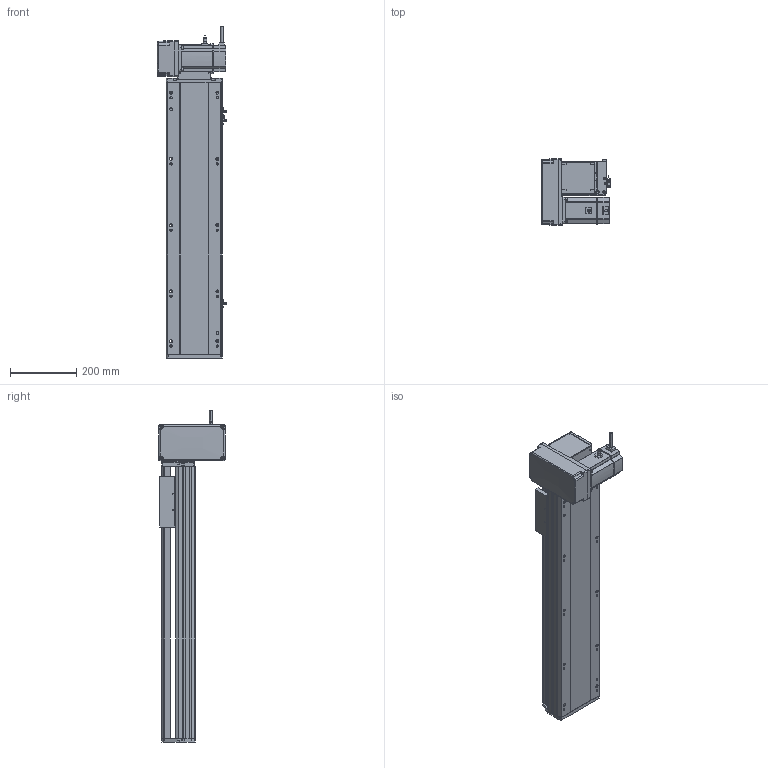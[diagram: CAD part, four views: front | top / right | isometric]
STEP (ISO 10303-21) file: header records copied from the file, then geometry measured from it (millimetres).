
FILE_DESCRIPTION (( 'STEP AP214' ), '1' );
FILE_NAME ('RTB17S-XX-550-LM-M75-C4.STEP', '2025-12-12T00:35:38', ( '' ), ( '' ), 'SwSTEP 2.0', 'SolidWorks 2018', '' );
FILE_SCHEMA (( 'AUTOMOTIVE_DESIGN' ));
Length unit declared in the file: millimetre
Products named in the file (15): RTB17S-賑釱^RTB17S-XX-XX-LM-M75-C4; RTB22S-GY-008-M75--萇儂啣^RTB17S-LM-々湍釱蚾饜-750W_RTB17S-XX-XX-LM-M75-C4; RTB22S-GY-018P^RTB17S-LM-々湍釱蚾饜-750W_RTB17S-XX-XX-LM-M75-C4; RTB17-R-011菁釱^RTB17S-XX-XX-LM-M75-C4; 750W萇儂^RTB17S-XX-XX-LM-M75-C4; EE672^RTB17S-XX-XX-LM-M75-C4; RTB17S-XX-550-LM-M75-C4; RTB17S-LM-々湍釱蚾饜-750W^RTB17S-XX-XX-LM-M75-C4; RTB22S-GY-017P^RTB17S-LM-々湍釱蚾饜-750W_RTB17S-XX-XX-LM-M75-C4; RTB17S-L-014-T20-P75--々湍釱^RTB17S-LM-々湍釱蚾饜-750W_RTB17S-XX-XX-LM-M75-C4; RTB22S-GY-005P^RTB17S-LM-々湍釱蚾饜-750W_RTB17S-XX-XX-LM-M75-C4; RTB17S-L-004-賑釱^RTB17S-賑釱_RTB17S-XX-XX-LM-M75-C4; RTB17S-L-001-耜醱啣^RTB17S-XX-XX-LM-M75-C4; RTH13-BL-012覜茼え俋离^RTB17S-賑釱_RTB17S-XX-XX-LM-M75-C4; RTB17S-L-007奻裔^RTB17S-XX-XX-LM-M75-C4
Assembly tree (17 placements, depth 3):
  RTB17S-XX-550-LM-M75-C4
    RTB17-R-011菁釱^RTB17S-XX-XX-LM-M75-C4
    EE672^RTB17S-XX-XX-LM-M75-C4  x3
    RTB17S-L-001-耜醱啣^RTB17S-XX-XX-LM-M75-C4
    RTB17S-賑釱^RTB17S-XX-XX-LM-M75-C4
      RTB17S-L-004-賑釱^RTB17S-賑釱_RTB17S-XX-XX-LM-M75-C4
      RTH13-BL-012覜茼え俋离^RTB17S-賑釱_RTB17S-XX-XX-LM-M75-C4
    RTB17S-L-007奻裔^RTB17S-XX-XX-LM-M75-C4
    750W萇儂^RTB17S-XX-XX-LM-M75-C4
    RTB17S-LM-々湍釱蚾饜-750W^RTB17S-XX-XX-LM-M75-C4
      RTB17S-L-014-T20-P75--々湍釱^RTB17S-LM-々湍釱蚾饜-750W_RTB17S-XX-XX-LM-M75-C4
      RTB22S-GY-005P^RTB17S-LM-々湍釱蚾饜-750W_RTB17S-XX-XX-LM-M75-C4
      RTB22S-GY-017P^RTB17S-LM-々湍釱蚾饜-750W_RTB17S-XX-XX-LM-M75-C4  x2
      RTB22S-GY-008-M75--萇儂啣^RTB17S-LM-々湍釱蚾饜-750W_RTB17S-XX-XX-LM-M75-C4
      RTB22S-GY-018P^RTB17S-LM-々湍釱蚾饜-750W_RTB17S-XX-XX-LM-M75-C4
Bounding box: 210.4 x 200 x 1002.2 mm (x, y, z)
Volume: 9388117.6 mm3; surface area: 1518170.9 mm2
Topology: 17 solids, 17 shells, 2057 faces, 5674 edges, 3662 vertices
Faces by surface type: plane 966, cylinder 675, bspline 294, cone 110, sphere 8, torus 4
Entity records: 56566 total; most frequent: CARTESIAN_POINT 16538, ORIENTED_EDGE 8192, DIRECTION 7682, EDGE_CURVE 4096, AXIS2_PLACEMENT_3D 2682, VERTEX_POINT 2666, LINE 2318, VECTOR 2318
